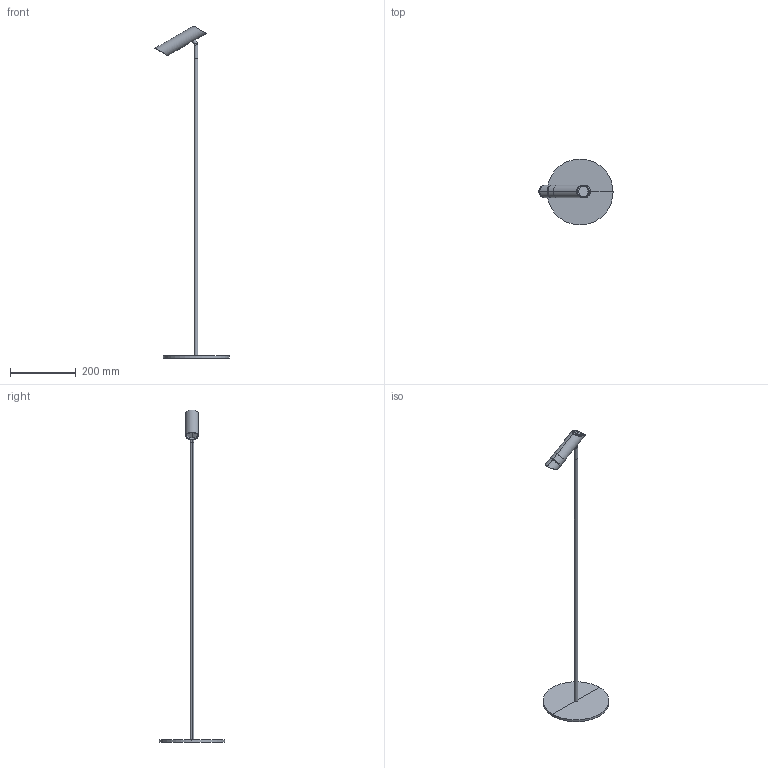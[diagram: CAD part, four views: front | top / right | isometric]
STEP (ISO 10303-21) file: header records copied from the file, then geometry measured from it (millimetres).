
FILE_DESCRIPTION(/* description */ (''),/* implementation_level */ '2;1');
FILE_NAME(/* name */ 'leo_floor_lamp.step',/* time_stamp */ '2024-12-10T08:33:32+01:00',/* author */ ('RenataManzini'),/* organization */ (''),/* preprocessor_version */ 'ST-DEVELOPER v20',/* originating_system */ 'AutoCAD Mechanical',/* authorisation */ '');
FILE_SCHEMA (('AUTOMOTIVE_DESIGN { 1 0 10303 214 3 1 1 }'));
Length unit declared in the file: millimetre
Products named in the file (1): Product
Bounding box: 224.8 x 200 x 1006.48 mm (x, y, z)
Volume: 440537.3 mm3; surface area: 133114.3 mm2
Topology: 6 solids, 6 shells, 51 faces, 89 edges, 54 vertices
Faces by surface type: plane 29, cylinder 18, bspline 4
Entity records: 1481 total; most frequent: CARTESIAN_POINT 487, DIRECTION 209, ORIENTED_EDGE 170, EDGE_CURVE 85, AXIS2_PLACEMENT_3D 84, EDGE_LOOP 53, FACE_OUTER_BOUND 51, ADVANCED_FACE 51
